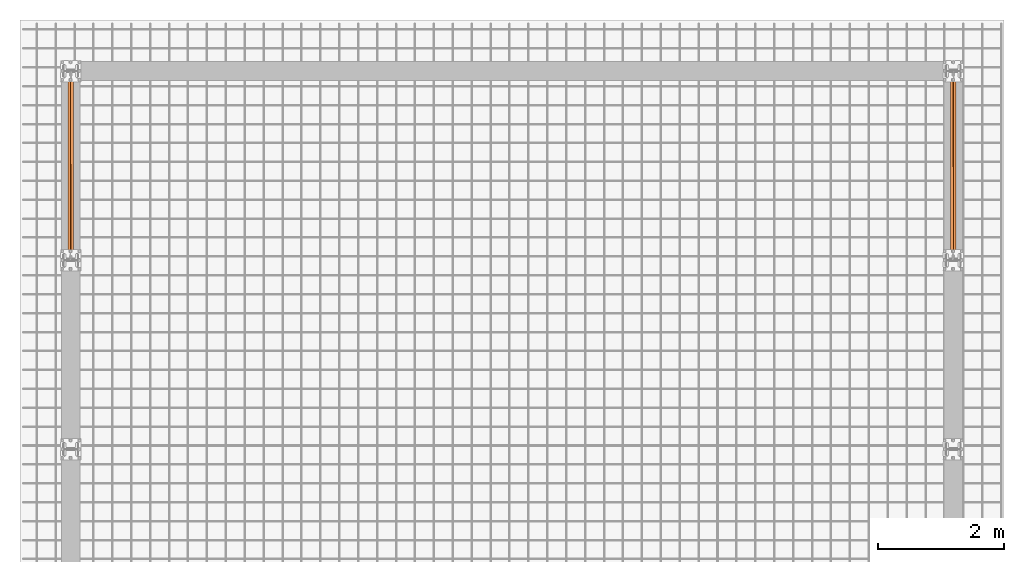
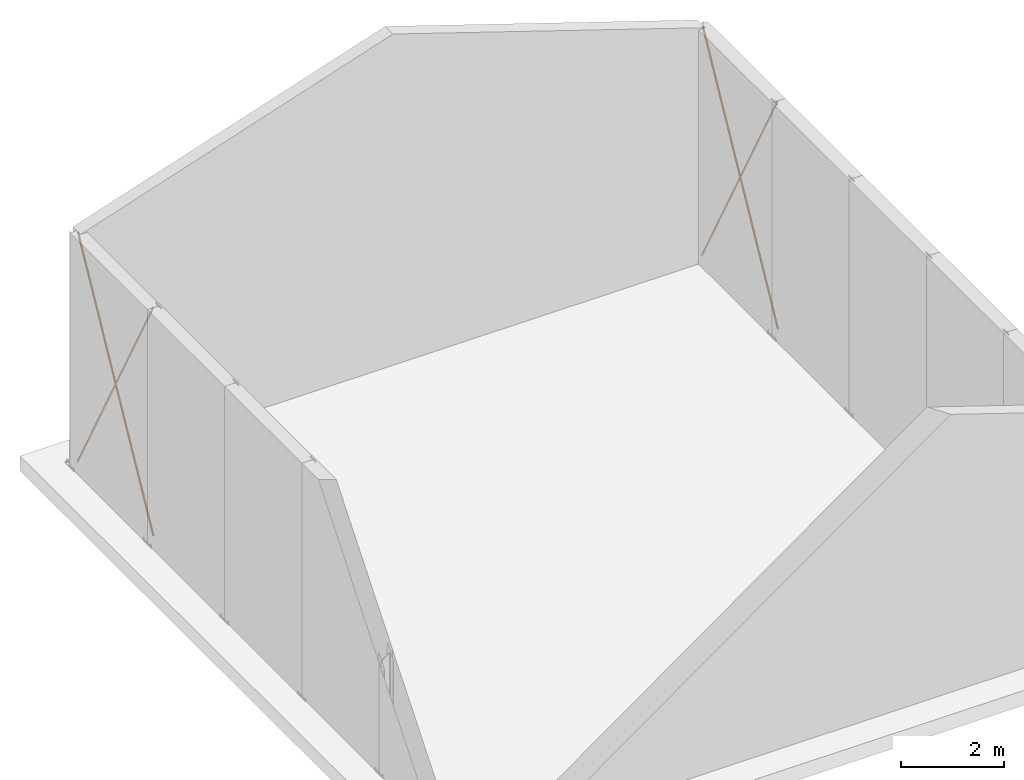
# One storey, part 29 of 29: 4 proxies.
"""IFC4 building model written with IfcOpenShell, lengths in metres."""

from ifc_helpers import new_model, si_unit, frame, origin_with_axes, origin_2d_with_axis, place, context, project, spatial, l_section, extrude, clip, halfspace, material, material_profile, profile_set, profile_usage, type_object, element, save


model = new_model("IFC4")

# Units and contexts
model_context = context("Model", 3, precision=1e-05, world=origin_with_axes())
ifc_project = project(units=[si_unit("LENGTHUNIT", "METRE"), si_unit("AREAUNIT", "SQUARE_METRE"), si_unit("VOLUMEUNIT", "CUBIC_METRE"), si_unit("MASSUNIT", "GRAM", prefix="KILO"), si_unit("TIMEUNIT", "SECOND"), si_unit("PLANEANGLEUNIT", "RADIAN"), si_unit("SOLIDANGLEUNIT", "STERADIAN"), si_unit("THERMODYNAMICTEMPERATUREUNIT", "DEGREE_CELSIUS")], contexts=[model_context])

# Site, building, storey
placement_1 = place(None, origin_with_axes())
site = spatial("IfcSite", under=ifc_project, at=placement_1, Name="Italia", CompositionType="ELEMENT")
building = spatial("IfcBuilding", under=site, at=placement_1, Name="Capannone", CompositionType="ELEMENT")
storey = spatial("IfcBuildingStorey", under=building, at=placement_1, Name="Storey 0", CompositionType="ELEMENT", Elevation=0.0)

# Proxies
ifc_material = material(Name="Acciaio", Category="Acciaio")
ifc_material_profile = material_profile(ifc_material, l_section(Depth=0.045, Width=0.045, Thickness=0.004, FilletRadius=0.0, EdgeRadius=0.0, at=origin_2d_with_axis()), Name="2 L45x4")
ifc_profile_set = profile_set([ifc_material_profile])
member_type_1 = type_object("IfcMemberType", Name="2 L45x4", PredefinedType="MEMBER", material=ifc_profile_set)
placement_2 = place(placement_1, origin_with_axes())
proxy_1_placement = place(placement_2, frame((14.018500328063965, 16.483726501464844, 8.333797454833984), z_axis=(0.0, 0.0, 1.0), x_axis=(1.0, 0.0, 0.0)))
element("IfcBuildingElementProxy", 1, at=proxy_1_placement, inside=storey, type_object=member_type_1, Name="200", context=model_context, shape_type="Clipping", body=[
    clip(clip(extrude(l_section(Depth=0.045, Width=0.045, Thickness=0.004, FilletRadius=0.0, EdgeRadius=0.0, at=origin_2d_with_axis()), frame((0.0, 0.0, 0.0), z_axis=(0.0, -0.47551703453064, -0.879706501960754), x_axis=(1.0, 0.0, 0.0)), (0.0, 0.0, 1.0), 12.6178), halfspace(frame((0.0, -1.52128, -2.81438), z_axis=(4.2146173e-08, 0.475522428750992, 0.879703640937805), x_axis=(-1.0, 8.8631303e-08, 0.0)), False)), halfspace(frame((0.0, -4.44616, -8.22541), z_axis=(4.2146212e-08, 0.475525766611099, 0.879701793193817), x_axis=(-1.0, 8.8630763e-08, 0.0)), True)),
])
ifc_profile_usage_1 = profile_usage(ifc_profile_set, cardinal=5)
member_type_2 = type_object("IfcMemberType", Name="2 L45x4", PredefinedType="MEMBER", material=ifc_profile_usage_1)
proxy_2_placement = place(placement_2, frame((-0.018500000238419, 10.516274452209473, 8.333797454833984), z_axis=(0.0, 0.0, 1.0), x_axis=(1.0, 0.0, 0.0)))
element("IfcBuildingElementProxy", 2, at=proxy_2_placement, inside=storey, type_object=member_type_2, Name="186", context=model_context, shape_type="Clipping", body=[
    clip(clip(extrude(l_section(Depth=0.045, Width=0.045, Thickness=0.004, FilletRadius=0.0, EdgeRadius=0.0, at=origin_2d_with_axis()), frame((0.0, 0.0, 0.0), z_axis=(0.0, 0.47551703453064, -0.879706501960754), x_axis=(-1.0, 0.0, 0.0)), (0.0, 0.0, 1.0), 12.6178), halfspace(frame((0.0, 1.5132, -2.79942), z_axis=(0.0, -0.475503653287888, 0.879713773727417), x_axis=(1.0, 0.0, 0.0)), False)), halfspace(frame((0.0, 4.45092, -8.23421), z_axis=(4.2146109e-08, -0.475503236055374, 0.879714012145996), x_axis=(1.0, 8.8634749e-08, 0.0)), True)),
])
ifc_profile_usage_2 = profile_usage(ifc_profile_set, cardinal=5)
member_type_3 = type_object("IfcMemberType", Name="2 L45x4", PredefinedType="MEMBER", material=ifc_profile_usage_2)
proxy_3_placement = place(placement_2, frame((0.018500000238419, 16.483726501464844, 8.333797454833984), z_axis=(0.0, 0.0, 1.0), x_axis=(1.0, 0.0, 0.0)))
element("IfcBuildingElementProxy", 3, at=proxy_3_placement, inside=storey, type_object=member_type_3, Name="147", context=model_context, shape_type="Clipping", body=[
    clip(clip(extrude(l_section(Depth=0.045, Width=0.045, Thickness=0.004, FilletRadius=0.0, EdgeRadius=0.0, at=origin_2d_with_axis()), frame((0.0, 0.0, 0.0), z_axis=(0.0, -0.47551703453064, -0.879706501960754), x_axis=(1.0, 0.0, 0.0)), (0.0, 0.0, 1.0), 12.6178), halfspace(frame((0.0, -1.5132, -2.79942), z_axis=(4.2146791e-08, 0.475512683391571, 0.879708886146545), x_axis=(-1.0, 8.8634422e-08, 0.0)), False)), halfspace(frame((0.0, -4.45092, -8.23421), z_axis=(0.0, 0.47552564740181, 0.879701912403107), x_axis=(-1.0, 0.0, 0.0)), True)),
])
ifc_profile_usage_3 = profile_usage(ifc_profile_set, cardinal=5)
member_type_4 = type_object("IfcMemberType", Name="2 L45x4", PredefinedType="MEMBER", material=ifc_profile_usage_3)
proxy_4_placement = place(placement_2, frame((13.981499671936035, 10.516274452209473, 8.333797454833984), z_axis=(0.0, 0.0, 1.0), x_axis=(1.0, 0.0, 0.0)))
element("IfcBuildingElementProxy", 4, at=proxy_4_placement, inside=storey, type_object=member_type_4, Name="161", context=model_context, shape_type="Clipping", body=[
    clip(clip(extrude(l_section(Depth=0.045, Width=0.045, Thickness=0.004, FilletRadius=0.0, EdgeRadius=0.0, at=origin_2d_with_axis()), frame((0.0, 0.0, 0.0), z_axis=(0.0, 0.47551703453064, -0.879706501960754), x_axis=(-1.0, 0.0, 0.0)), (0.0, 0.0, 1.0), 12.6178), halfspace(frame((0.0, 1.52128, -2.81438), z_axis=(0.0, -0.47550293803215, 0.87971419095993), x_axis=(1.0, 0.0, 0.0)), False)), halfspace(frame((0.0, 4.44617, -8.22541), z_axis=(0.0, -0.47551891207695, 0.879705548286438), x_axis=(1.0, 0.0, 0.0)), True)),
])

save(model, "model.ifc")
